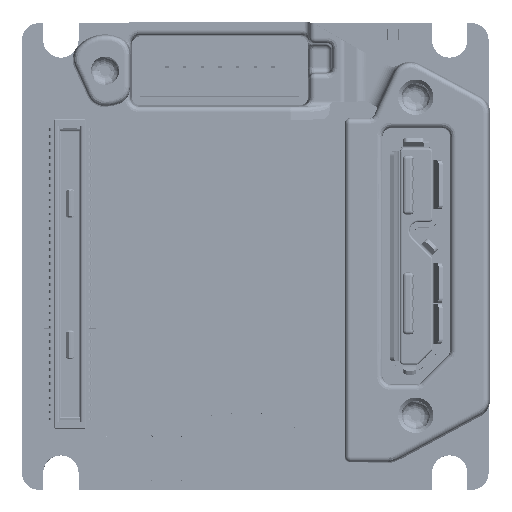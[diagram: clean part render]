
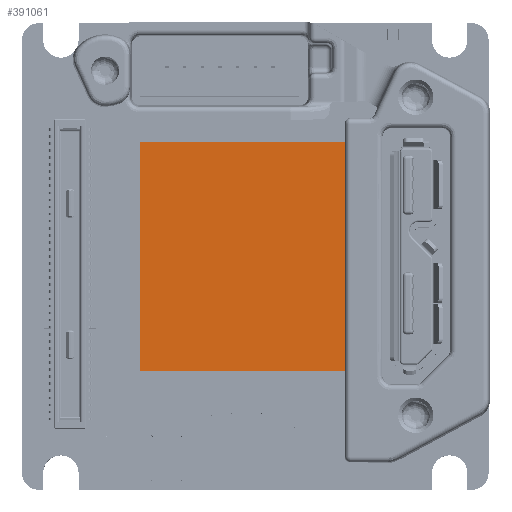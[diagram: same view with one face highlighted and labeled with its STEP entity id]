
A CAD part, top view. The second image highlights one B-rep face of the part: STEP entity #391061.
In plain terms, the highlighted planar face has unit normal (0, 0, 1).
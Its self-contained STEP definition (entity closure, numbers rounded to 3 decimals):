
#5292 = DIRECTION ( 'NONE',  ( 0., -1., 0. ) ) ;
#25460 = DIRECTION ( 'NONE',  ( -1., 0., 0. ) ) ;
#33630 = VECTOR ( 'NONE', #512533, 1000. ) ;
#46839 = ORIENTED_EDGE ( 'NONE', *, *, #475171, .F. ) ;
#88236 = VERTEX_POINT ( 'NONE', #657356 ) ;
#106643 = CARTESIAN_POINT ( 'NONE',  ( 0., 0., 6.162 ) ) ;
#119807 = LINE ( 'NONE', #619356, #590080 ) ;
#131328 = EDGE_LOOP ( 'NONE', ( #164274, #46839, #179104, #156801 ) ) ;
#143966 = FACE_OUTER_BOUND ( 'NONE', #131328, .T. ) ;
#156801 = ORIENTED_EDGE ( 'NONE', *, *, #550610, .F. ) ;
#164274 = ORIENTED_EDGE ( 'NONE', *, *, #389154, .F. ) ;
#179104 = ORIENTED_EDGE ( 'NONE', *, *, #593375, .F. ) ;
#189789 = VERTEX_POINT ( 'NONE', #217306 ) ;
#217306 = CARTESIAN_POINT ( 'NONE',  ( -6.5, -6.5, 6.162 ) ) ;
#248748 = VERTEX_POINT ( 'NONE', #651371 ) ;
#281769 = LINE ( 'NONE', #487651, #521379 ) ;
#373869 = LINE ( 'NONE', #421192, #33630 ) ;
#373925 = LINE ( 'NONE', #529200, #489019 ) ;
#389154 = EDGE_CURVE ( 'NONE', #555437, #189789, #281769, .T. ) ;
#391061 = ADVANCED_FACE ( 'NONE', ( #143966 ), #447629, .F. ) ;
#421192 = CARTESIAN_POINT ( 'NONE',  ( -6.5, 6.5, 6.162 ) ) ;
#447629 = PLANE ( 'NONE',  #607874 ) ;
#475171 = EDGE_CURVE ( 'NONE', #88236, #555437, #119807, .T. ) ;
#487651 = CARTESIAN_POINT ( 'NONE',  ( 6.5, -6.5, 6.162 ) ) ;
#489019 = VECTOR ( 'NONE', #579750, 1000. ) ;
#504890 = DIRECTION ( 'NONE',  ( 0., -1., 0. ) ) ;
#512533 = DIRECTION ( 'NONE',  ( 1., 0., 0. ) ) ;
#518223 = DIRECTION ( 'NONE',  ( 0., 0., -1. ) ) ;
#521379 = VECTOR ( 'NONE', #25460, 1000. ) ;
#529200 = CARTESIAN_POINT ( 'NONE',  ( -6.5, -6.5, 6.162 ) ) ;
#550610 = EDGE_CURVE ( 'NONE', #189789, #248748, #373925, .T. ) ;
#555437 = VERTEX_POINT ( 'NONE', #634401 ) ;
#579750 = DIRECTION ( 'NONE',  ( 0., 1., 0. ) ) ;
#590080 = VECTOR ( 'NONE', #5292, 1000. ) ;
#593375 = EDGE_CURVE ( 'NONE', #248748, #88236, #373869, .T. ) ;
#607874 = AXIS2_PLACEMENT_3D ( 'NONE', #106643, #518223, #504890 ) ;
#619356 = CARTESIAN_POINT ( 'NONE',  ( 6.5, 6.5, 6.162 ) ) ;
#634401 = CARTESIAN_POINT ( 'NONE',  ( 6.5, -6.5, 6.162 ) ) ;
#651371 = CARTESIAN_POINT ( 'NONE',  ( -6.5, 6.5, 6.162 ) ) ;
#657356 = CARTESIAN_POINT ( 'NONE',  ( 6.5, 6.5, 6.162 ) ) ;
